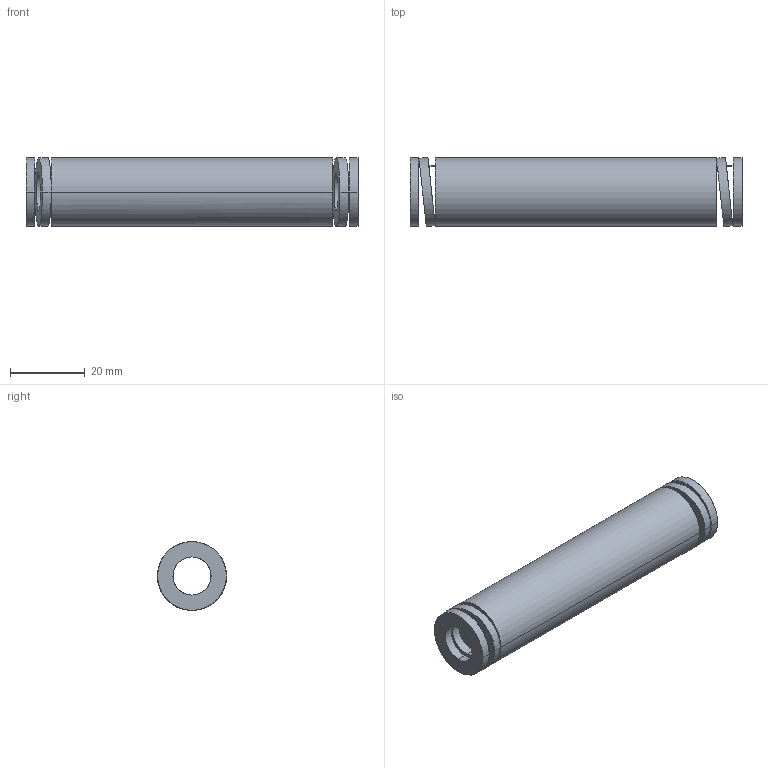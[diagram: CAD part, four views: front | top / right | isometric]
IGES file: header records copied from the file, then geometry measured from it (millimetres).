
Start section: START RECORD GO HERE.
Global section: file name: 392-B20-089.igs; native system: DASSAULT SYSTEMES CATIA V5 R20 - www.3ds.com; preprocessor: CATIA Version 5 Release 20 ; author: Utente; organization: NB04-ASUS; date: 20210812.154902; units: millimetre
Bounding box: 89 x 18.55 x 18.4 mm (x, y, z)
Surface area: 9474.7 mm2 (no closed solid volume)
Topology: 0 solids, 0 shells, 38 faces, 184 edges, 184 vertices
Faces by surface type: revolution 28, plane 10
